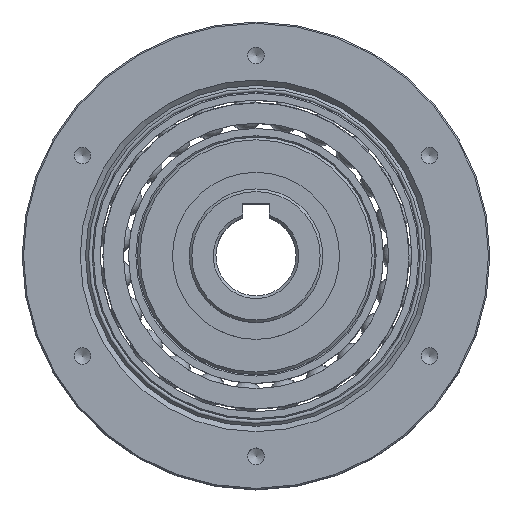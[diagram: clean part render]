
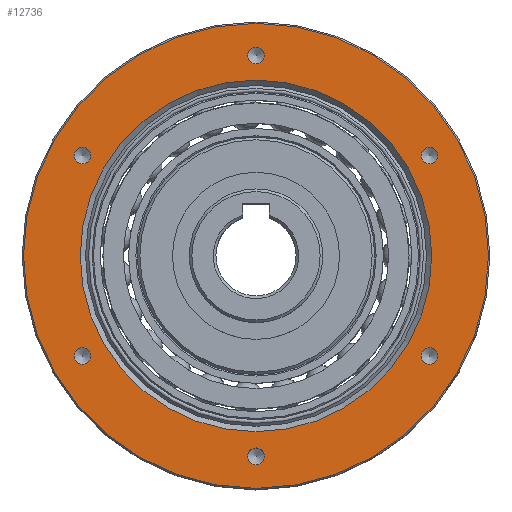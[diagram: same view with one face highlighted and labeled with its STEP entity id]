
A CAD part, top view. The second image highlights one B-rep face of the part: STEP entity #12736.
In plain terms, the highlighted planar face has unit normal (0, 0, 1).
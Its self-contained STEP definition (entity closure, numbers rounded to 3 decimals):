
#4 = CARTESIAN_POINT ( 'NONE',  ( 25.981, -15., 12.5 ) ) ;
#38 = DIRECTION ( 'NONE',  ( 1., 0., 0. ) ) ;
#61 = DIRECTION ( 'NONE',  ( 0., 0., 1. ) ) ;
#86 = AXIS2_PLACEMENT_3D ( 'NONE', #4184, #12339, #5351 ) ;
#114 = DIRECTION ( 'NONE',  ( -1., 0., 0. ) ) ;
#208 = PLANE ( 'NONE',  #7029 ) ;
#696 = CARTESIAN_POINT ( 'NONE',  ( 0., 0., 12.5 ) ) ;
#774 = DIRECTION ( 'NONE',  ( 0., 0., 1. ) ) ;
#948 = EDGE_CURVE ( 'NONE', #9525, #9525, #13378, .T. ) ;
#1013 = DIRECTION ( 'NONE',  ( 0., 0., 1. ) ) ;
#1306 = AXIS2_PLACEMENT_3D ( 'NONE', #4, #61, #114 ) ;
#1662 = FACE_BOUND ( 'NONE', #13932, .T. ) ;
#1754 = VERTEX_POINT ( 'NONE', #4486 ) ;
#1880 = DIRECTION ( 'NONE',  ( 1., 0., 0. ) ) ;
#2073 = EDGE_CURVE ( 'NONE', #2877, #2877, #3814, .T. ) ;
#2108 = CARTESIAN_POINT ( 'NONE',  ( 24.731, 15., 12.5 ) ) ;
#2145 = AXIS2_PLACEMENT_3D ( 'NONE', #3655, #9116, #38 ) ;
#2193 = AXIS2_PLACEMENT_3D ( 'NONE', #8083, #1013, #9268 ) ;
#2546 = CIRCLE ( 'NONE', #9710, 1.25 ) ;
#2563 = CIRCLE ( 'NONE', #2193, 1.25 ) ;
#2863 = VERTEX_POINT ( 'NONE', #14122 ) ;
#2877 = VERTEX_POINT ( 'NONE', #3242 ) ;
#3242 = CARTESIAN_POINT ( 'NONE',  ( 34.8, 0., 12.5 ) ) ;
#3614 = VERTEX_POINT ( 'NONE', #8243 ) ;
#3638 = EDGE_CURVE ( 'NONE', #14258, #14258, #9526, .T. ) ;
#3655 = CARTESIAN_POINT ( 'NONE',  ( 0., 0., 12.5 ) ) ;
#3796 = DIRECTION ( 'NONE',  ( 1., 0., 0. ) ) ;
#3814 = CIRCLE ( 'NONE', #2145, 34.8 ) ;
#3959 = CIRCLE ( 'NONE', #14690, 1.25 ) ;
#3983 = EDGE_LOOP ( 'NONE', ( #10259 ) ) ;
#4184 = CARTESIAN_POINT ( 'NONE',  ( 25.981, 15., 12.5 ) ) ;
#4192 = EDGE_LOOP ( 'NONE', ( #9173 ) ) ;
#4338 = CARTESIAN_POINT ( 'NONE',  ( 0., -30., 12.5 ) ) ;
#4416 = EDGE_CURVE ( 'NONE', #1754, #1754, #13720, .T. ) ;
#4439 = FACE_OUTER_BOUND ( 'NONE', #6549, .T. ) ;
#4459 = EDGE_LOOP ( 'NONE', ( #9897 ) ) ;
#4486 = CARTESIAN_POINT ( 'NONE',  ( 26.31, 0., 12.5 ) ) ;
#4864 = EDGE_CURVE ( 'NONE', #10772, #10772, #7863, .T. ) ;
#5176 = FACE_BOUND ( 'NONE', #12493, .T. ) ;
#5351 = DIRECTION ( 'NONE',  ( -1., 0., 0. ) ) ;
#5512 = DIRECTION ( 'NONE',  ( -1., 0., 0. ) ) ;
#5677 = CARTESIAN_POINT ( 'NONE',  ( -27.231, 15., 12.5 ) ) ;
#5905 = DIRECTION ( 'NONE',  ( 0., 0., 1. ) ) ;
#6549 = EDGE_LOOP ( 'NONE', ( #7881 ) ) ;
#6760 = CARTESIAN_POINT ( 'NONE',  ( 24.731, -15., 12.5 ) ) ;
#7029 = AXIS2_PLACEMENT_3D ( 'NONE', #14292, #10807, #3796 ) ;
#7519 = EDGE_CURVE ( 'NONE', #12768, #12768, #3959, .T. ) ;
#7565 = FACE_BOUND ( 'NONE', #4192, .T. ) ;
#7832 = CARTESIAN_POINT ( 'NONE',  ( -25.981, -15., 12.5 ) ) ;
#7863 = CIRCLE ( 'NONE', #11215, 1.25 ) ;
#7881 = ORIENTED_EDGE ( 'NONE', *, *, #2073, .T. ) ;
#7930 = FACE_BOUND ( 'NONE', #7941, .T. ) ;
#7941 = EDGE_LOOP ( 'NONE', ( #10620 ) ) ;
#8083 = CARTESIAN_POINT ( 'NONE',  ( 0., 30., 12.5 ) ) ;
#8243 = CARTESIAN_POINT ( 'NONE',  ( -1.25, 30., 12.5 ) ) ;
#8309 = FACE_BOUND ( 'NONE', #12754, .T. ) ;
#8939 = DIRECTION ( 'NONE',  ( 0., 0., -1. ) ) ;
#9015 = DIRECTION ( 'NONE',  ( -1., 0., 0. ) ) ;
#9116 = DIRECTION ( 'NONE',  ( 0., 0., 1. ) ) ;
#9173 = ORIENTED_EDGE ( 'NONE', *, *, #4416, .T. ) ;
#9268 = DIRECTION ( 'NONE',  ( -1., 0., 0. ) ) ;
#9525 = VERTEX_POINT ( 'NONE', #6760 ) ;
#9526 = CIRCLE ( 'NONE', #86, 1.25 ) ;
#9710 = AXIS2_PLACEMENT_3D ( 'NONE', #7832, #774, #9015 ) ;
#9897 = ORIENTED_EDGE ( 'NONE', *, *, #7519, .F. ) ;
#10259 = ORIENTED_EDGE ( 'NONE', *, *, #14480, .F. ) ;
#10620 = ORIENTED_EDGE ( 'NONE', *, *, #4864, .F. ) ;
#10680 = FACE_BOUND ( 'NONE', #4459, .T. ) ;
#10772 = VERTEX_POINT ( 'NONE', #5677 ) ;
#10805 = ORIENTED_EDGE ( 'NONE', *, *, #13420, .F. ) ;
#10807 = DIRECTION ( 'NONE',  ( 0., 0., -1. ) ) ;
#11215 = AXIS2_PLACEMENT_3D ( 'NONE', #12917, #5905, #14099 ) ;
#12339 = DIRECTION ( 'NONE',  ( 0., 0., 1. ) ) ;
#12493 = EDGE_LOOP ( 'NONE', ( #10805 ) ) ;
#12505 = DIRECTION ( 'NONE',  ( 0., 0., 1. ) ) ;
#12582 = AXIS2_PLACEMENT_3D ( 'NONE', #696, #8939, #1880 ) ;
#12622 = ORIENTED_EDGE ( 'NONE', *, *, #3638, .F. ) ;
#12736 = ADVANCED_FACE ( 'NONE', ( #1662, #8309, #5176, #7930, #13772, #10680, #7565, #4439 ), #208, .F. ) ;
#12754 = EDGE_LOOP ( 'NONE', ( #12622 ) ) ;
#12768 = VERTEX_POINT ( 'NONE', #13914 ) ;
#12917 = CARTESIAN_POINT ( 'NONE',  ( -25.981, 15., 12.5 ) ) ;
#13378 = CIRCLE ( 'NONE', #1306, 1.25 ) ;
#13420 = EDGE_CURVE ( 'NONE', #3614, #3614, #2563, .T. ) ;
#13720 = CIRCLE ( 'NONE', #12582, 26.31 ) ;
#13772 = FACE_BOUND ( 'NONE', #3983, .T. ) ;
#13914 = CARTESIAN_POINT ( 'NONE',  ( -1.25, -30., 12.5 ) ) ;
#13932 = EDGE_LOOP ( 'NONE', ( #14407 ) ) ;
#14099 = DIRECTION ( 'NONE',  ( -1., 0., 0. ) ) ;
#14122 = CARTESIAN_POINT ( 'NONE',  ( -27.231, -15., 12.5 ) ) ;
#14258 = VERTEX_POINT ( 'NONE', #2108 ) ;
#14292 = CARTESIAN_POINT ( 'NONE',  ( 0., -35., 12.5 ) ) ;
#14407 = ORIENTED_EDGE ( 'NONE', *, *, #948, .F. ) ;
#14480 = EDGE_CURVE ( 'NONE', #2863, #2863, #2546, .T. ) ;
#14690 = AXIS2_PLACEMENT_3D ( 'NONE', #4338, #12505, #5512 ) ;
